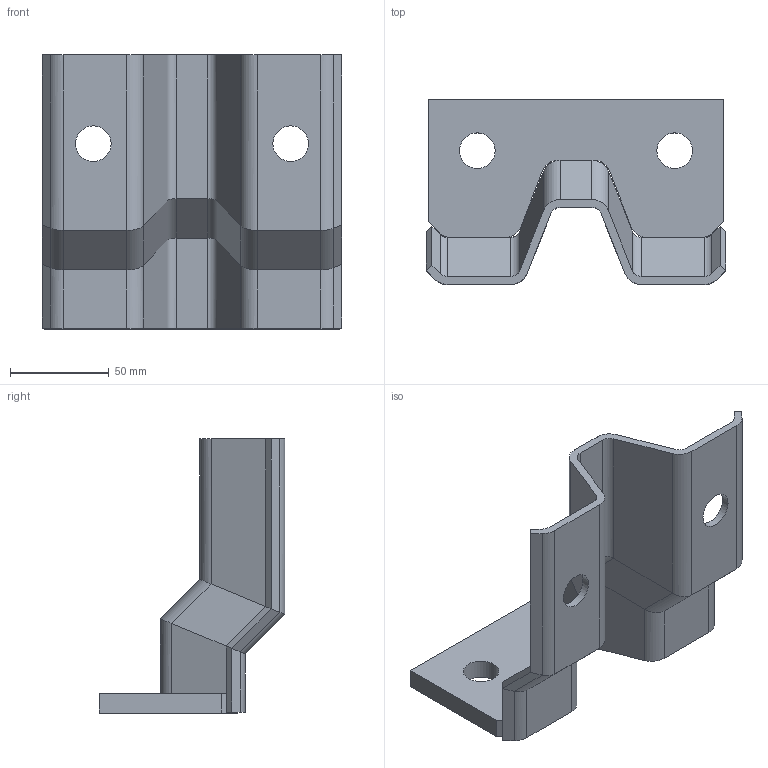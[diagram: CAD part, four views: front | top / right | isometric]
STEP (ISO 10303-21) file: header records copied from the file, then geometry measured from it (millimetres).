
FILE_DESCRIPTION(/* description */ (''),/* implementation_level */ '2;1');
FILE_NAME(/* name */ 'B175W100.stp',/* time_stamp */ '2023-07-03T10:38:42+02:00',/* author */ ('woriedl'),/* organization */ (''),/* preprocessor_version */ 'ST-DEVELOPER v19.2',/* originating_system */ 'AutoCAD Mechanical',/* authorisation */ '');
FILE_SCHEMA (('AUTOMOTIVE_DESIGN { 1 0 10303 214 3 1 1 }'));
Length unit declared in the file: centimetre
Products named in the file (1): Product
Bounding box: 151.72 x 94 x 139 mm (x, y, z)
Volume: 198155.8 mm3; surface area: 82343.6 mm2
Topology: 1 solids, 1 shells, 108 faces, 268 edges, 158 vertices
Faces by surface type: plane 62, cylinder 46
Full cylindrical faces by diameter (mm): 18 x4
Entity records: 3171 total; most frequent: DIRECTION 554, ORIENTED_EDGE 536, CARTESIAN_POINT 535, EDGE_CURVE 268, LINE 200, VECTOR 200, AXIS2_PLACEMENT_3D 177, VERTEX_POINT 158
